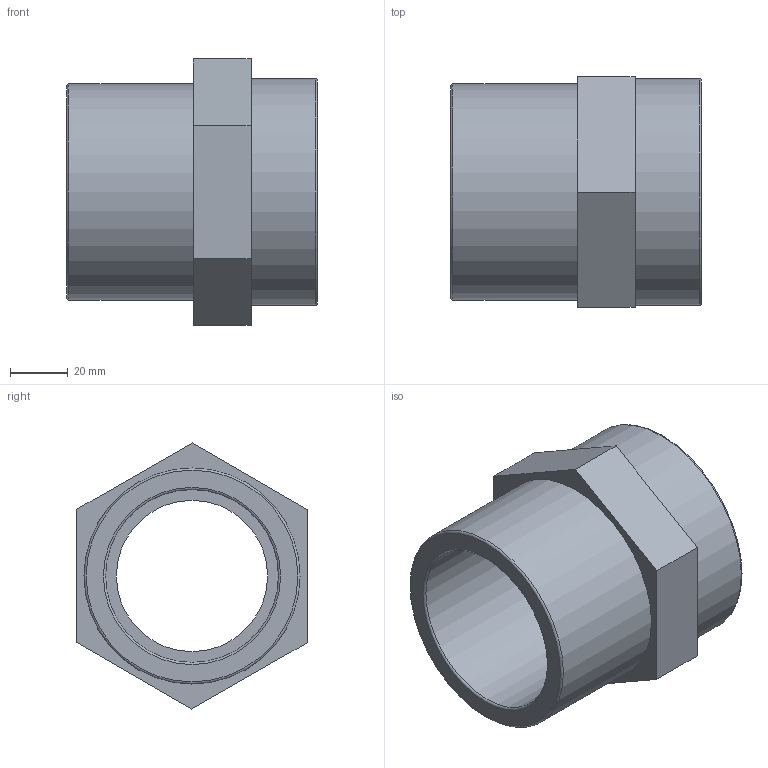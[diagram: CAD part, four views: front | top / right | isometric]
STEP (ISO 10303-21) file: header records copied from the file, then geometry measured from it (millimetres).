
FILE_DESCRIPTION(/* description */ ('PLASSON ADAPTOR SOCKET M.F. 75-2.1/2" CEM-THR'),/* implementation_level */ '2;1');
FILE_NAME(/* name */ 'C:\Dropbox\KIMPROJECTS-Inventor\99-16-3568-Processing\PVC Catalog 2017\050302\050302075025.ipt.stp',/* time_stamp */ '2017-12-07T15:54:05+02:00',/* author */ ('KIM'),/* organization */ (''),/* preprocessor_version */ 'ST-DEVELOPER v15.6',/* originating_system */ 'Autodesk Inventor 2015',/* authorisation */ '');
FILE_SCHEMA (('AUTOMOTIVE_DESIGN { 1 0 10303 214 3 1 1 }'));
Length unit declared in the file: millimetre
Products named in the file (1): 050302075025
Bounding box: 87 x 80.13 x 92.38 mm (x, y, z)
Volume: 138191.2 mm3; surface area: 45442.8 mm2
Topology: 1 solids, 1 shells, 21 faces, 41 edges, 26 vertices
Faces by surface type: plane 12, cylinder 5, torus 4
Full cylindrical faces by diameter (mm): 52.5 x1, 60 x1, 72.226 x1, 75 x1, 78.75 x1
Entity records: 520 total; most frequent: DIRECTION 90, CARTESIAN_POINT 80, ORIENTED_EDGE 64, EDGE_LOOP 36, AXIS2_PLACEMENT_3D 36, EDGE_CURVE 32, VERTEX_POINT 26, FACE_OUTER_BOUND 21
